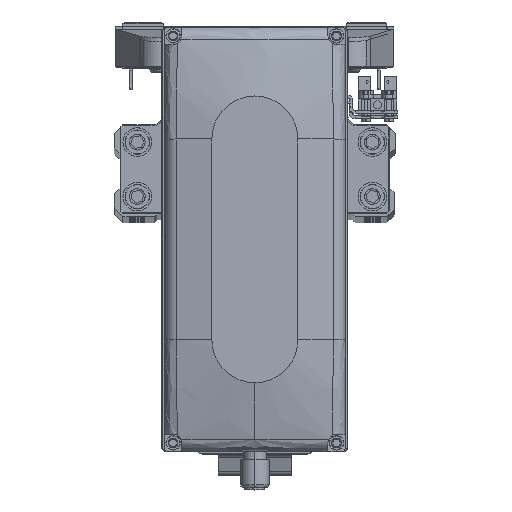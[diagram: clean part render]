
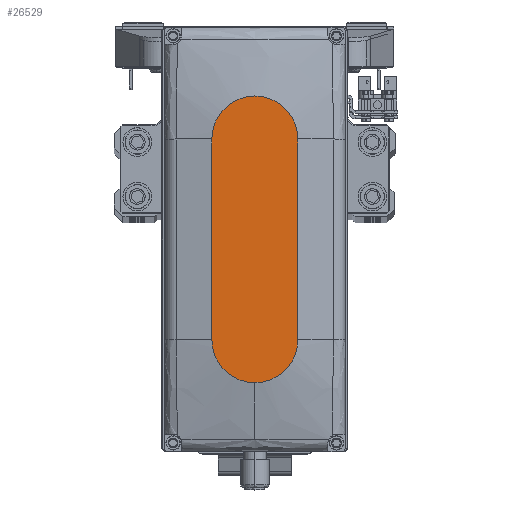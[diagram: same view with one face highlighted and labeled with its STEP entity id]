
A CAD part, top view. The second image highlights one B-rep face of the part: STEP entity #26529.
In plain terms, the highlighted planar face has unit normal (0, 0, 1).
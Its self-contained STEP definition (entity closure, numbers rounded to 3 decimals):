
#797 = AXIS2_PLACEMENT_3D ( 'NONE', #21859, #37103, #2847 ) ;
#1378 = VERTEX_POINT ( 'NONE', #35366 ) ;
#1381 = DIRECTION ( 'NONE',  ( 1., 0., 0. ) ) ;
#1591 = EDGE_CURVE ( 'NONE', #36541, #1378, #22384, .T. ) ;
#2487 = LINE ( 'NONE', #17751, #27117 ) ;
#2847 = DIRECTION ( 'NONE',  ( 1., 0., 0. ) ) ;
#3579 = VECTOR ( 'NONE', #21097, 1000. ) ;
#5838 = CARTESIAN_POINT ( 'NONE',  ( -35., 15., 35. ) ) ;
#6693 = ORIENTED_EDGE ( 'NONE', *, *, #1591, .T. ) ;
#7954 = CARTESIAN_POINT ( 'NONE',  ( 35., -15., 35. ) ) ;
#9665 = DIRECTION ( 'NONE',  ( 1., 0., 0. ) ) ;
#10451 = CARTESIAN_POINT ( 'NONE',  ( 0., 0., 35. ) ) ;
#12439 = EDGE_CURVE ( 'NONE', #34175, #36541, #2487, .T. ) ;
#12668 = CARTESIAN_POINT ( 'NONE',  ( -35., -15., 35. ) ) ;
#14727 = AXIS2_PLACEMENT_3D ( 'NONE', #10451, #25705, #40941 ) ;
#17751 = CARTESIAN_POINT ( 'NONE',  ( -35., -15., 35. ) ) ;
#20402 = CARTESIAN_POINT ( 'NONE',  ( 35., 0., 35. ) ) ;
#21097 = DIRECTION ( 'NONE',  ( -1., 0., 0. ) ) ;
#21859 = CARTESIAN_POINT ( 'NONE',  ( 35., 0., 35. ) ) ;
#22384 = CIRCLE ( 'NONE', #797, 15. ) ;
#24642 = ORIENTED_EDGE ( 'NONE', *, *, #28609, .T. ) ;
#25705 = DIRECTION ( 'NONE',  ( 0., 0., 1. ) ) ;
#25724 = CARTESIAN_POINT ( 'NONE',  ( -35., 15., 35. ) ) ;
#25753 = EDGE_LOOP ( 'NONE', ( #24642, #46761, #30533, #6693, #44784 ) ) ;
#26529 = ADVANCED_FACE ( 'NONE', ( #29449 ), #44691, .T. ) ;
#27117 = VECTOR ( 'NONE', #33000, 1000. ) ;
#28609 = EDGE_CURVE ( 'NONE', #47801, #35232, #40086, .T. ) ;
#28672 = CARTESIAN_POINT ( 'NONE',  ( -35., 0., 35. ) ) ;
#28763 = CARTESIAN_POINT ( 'NONE',  ( 35., 15., 35. ) ) ;
#29449 = FACE_OUTER_BOUND ( 'NONE', #25753, .T. ) ;
#30533 = ORIENTED_EDGE ( 'NONE', *, *, #12439, .T. ) ;
#30712 = CIRCLE ( 'NONE', #37095, 15. ) ;
#33000 = DIRECTION ( 'NONE',  ( 1., 0., 0. ) ) ;
#34175 = VERTEX_POINT ( 'NONE', #12668 ) ;
#35232 = VERTEX_POINT ( 'NONE', #25724 ) ;
#35366 = CARTESIAN_POINT ( 'NONE',  ( 50., 0., 35. ) ) ;
#35641 = DIRECTION ( 'NONE',  ( 0., 0., 1. ) ) ;
#36541 = VERTEX_POINT ( 'NONE', #7954 ) ;
#36922 = EDGE_CURVE ( 'NONE', #35232, #34175, #39457, .T. ) ;
#37095 = AXIS2_PLACEMENT_3D ( 'NONE', #20402, #35641, #1381 ) ;
#37103 = DIRECTION ( 'NONE',  ( 0., 0., 1. ) ) ;
#39457 = CIRCLE ( 'NONE', #45857, 15. ) ;
#40086 = LINE ( 'NONE', #5838, #3579 ) ;
#40941 = DIRECTION ( 'NONE',  ( 1., 0., 0. ) ) ;
#41383 = EDGE_CURVE ( 'NONE', #1378, #47801, #30712, .T. ) ;
#43908 = DIRECTION ( 'NONE',  ( 0., 0., 1. ) ) ;
#44691 = PLANE ( 'NONE',  #14727 ) ;
#44784 = ORIENTED_EDGE ( 'NONE', *, *, #41383, .T. ) ;
#45857 = AXIS2_PLACEMENT_3D ( 'NONE', #28672, #43908, #9665 ) ;
#46761 = ORIENTED_EDGE ( 'NONE', *, *, #36922, .T. ) ;
#47801 = VERTEX_POINT ( 'NONE', #28763 ) ;
